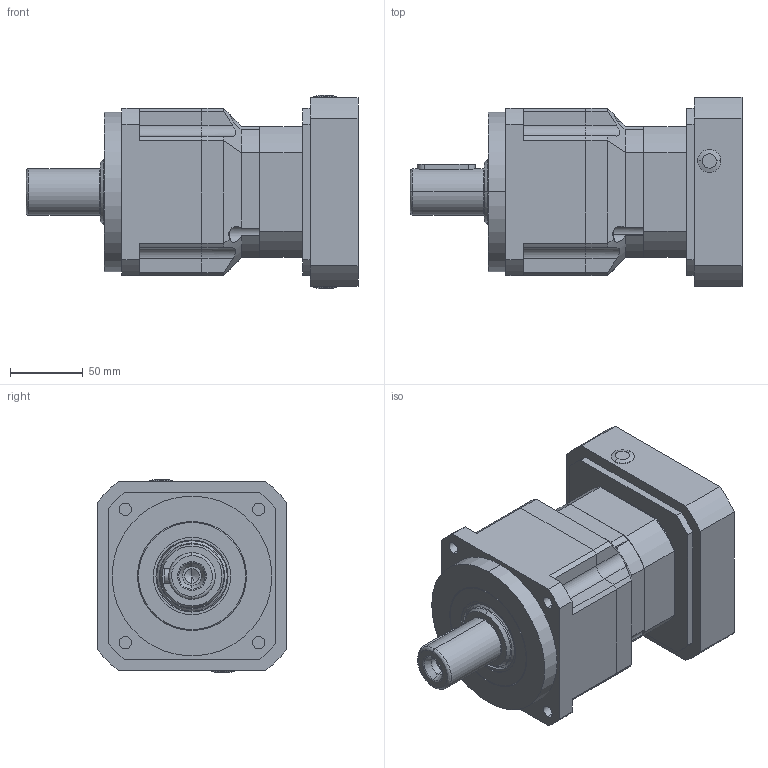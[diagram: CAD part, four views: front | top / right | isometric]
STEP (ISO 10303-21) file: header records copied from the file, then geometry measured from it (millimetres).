
FILE_DESCRIPTION (( 'STEP AP203' ), '1' );
FILE_NAME ('HAB115-L2-S2-P2-22-110-145-M8.STEP', '2024-05-20T07:06:39', ( 'MM' ), ( 'Microsoft' ), 'SwSTEP 2.0', 'SolidWorks 2018', '' );
FILE_SCHEMA (( 'CONFIG_CONTROL_DESIGN' ));
Length unit declared in the file: millimetre
Products named in the file (26): _115_090__-_-211590001; _115_-__M8X20L_-_-0001; _110-14-150130001; _115_-_1_0001; __-__M5_-_-2__0001; _115_090__-_-128390001; _115_090__-__M6_-_0001; _115_090__-_-53300001; _090_22__-___0001; __-___1_2__0001; _115-12_-_-4_0001; _115_-_M8_1_0001; _110-14-185790001; _A10X8X40L_-_-2_0001; __-_-2_0001; __-___1_3__0001; _110-14-204330001; _110-145-86210001; HAB115-L2-S2-P2-22-110-145-M8; _115_090__-_M5_1_0001; _110-145-21430001; _110-14-168770001; _110-14-187250001; __-___1_1__0001; _115_-_2_0001; 115-L2-22-110-145-0001_ASM
Assembly tree (25 placements, depth 3):
  HAB115-L2-S2-P2-22-110-145-M8
    115-L2-22-110-145-0001_ASM
      __-_-2_0001
      _110-145-21430001
      __-___1_1__0001
      __-___1_3__0001
      _115_090__-_-53300001
      _115-12_-_-4_0001
      _115_090__-_M5_1_0001
      _110-145-86210001
      _115_-_2_0001
      _115_-__M8X20L_-_-0001
      _115_090__-_-128390001
      _110-14-150130001
      _115_-_M8_1_0001
      _110-14-168770001
      _115_090__-__M6_-_0001
      _115_-_1_0001
      __-___1_2__0001
      _110-14-185790001
      _110-14-187250001
      _A10X8X40L_-_-2_0001
      __-__M5_-_-2__0001
      _090_22__-___0001
      _110-14-204330001
      _115_090__-_-211590001
Bounding box: 228.5 x 130 x 133 mm (x, y, z)
Volume: 1839947.8 mm3; surface area: 233953.2 mm2
Topology: 24 solids, 24 shells, 681 faces, 1645 edges, 1046 vertices
Faces by surface type: plane 283, cylinder 242, cone 100, bspline 48, torus 8
Entity records: 29211 total; most frequent: CARTESIAN_POINT 10728, DIRECTION 3281, ORIENTED_EDGE 3258, EDGE_CURVE 1629, AXIS2_PLACEMENT_3D 1235, VERTEX_POINT 1046, LINE 811, VECTOR 811
